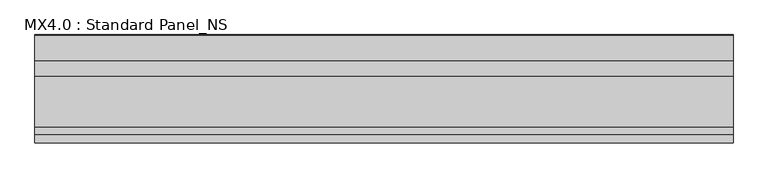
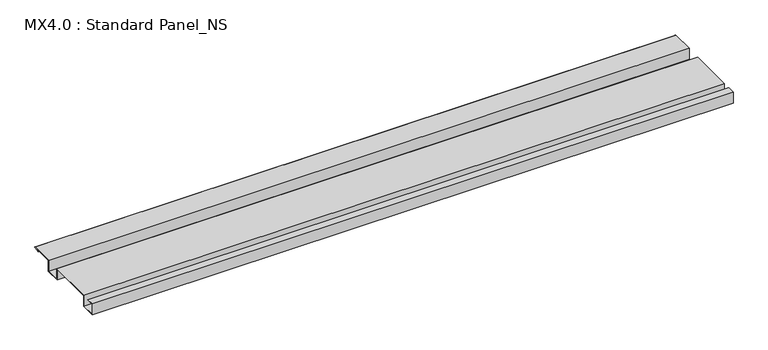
"""IFC4 building model written with IfcOpenShell, lengths in millimetres: proxy geometry, MX4.0 : Standard Panel_NS."""

import ifcopenshell
import ifcopenshell.guid

model = None  # the IFC model being written
_history = None  # IfcOwnerHistory: only IFC2X3 demands one
_inside = {}  # id of a spatial element -> (the spatial element, [elements in it])
_under = {}  # id of a project, library or spatial element -> (it, [spatial elements below it])
_declared = {}  # id of a project -> (the project, [libraries it declares])
_typed = {}  # id of a type object -> (the type object, [elements of that type])
_made_of = {}  # id of a material, layer set ... -> (it, [elements and type objects made of it])


def new_model(schema):
    """Start an empty IFC model of exactly this schema.

    Asked for "IFC4X3", IfcOpenShell would pick the latest addendum, in which some entities
    have other attributes; the version numbers below select the first issue.
    IFC2X3 requires an IfcOwnerHistory on every rooted entity: one is made here for all.
    """
    global model, _history
    if schema == "IFC4X3":
        model = ifcopenshell.file(schema_version=(4, 3, 0, 0))
    else:
        model = ifcopenshell.file(schema=schema)
    _inside.clear()
    _under.clear()
    _declared.clear()
    _typed.clear()
    _made_of.clear()
    _history = None
    if model.schema == "IFC2X3":
        org = make("IfcOrganization", Name="unknown")
        user = make(
            "IfcPersonAndOrganization",
            ThePerson=make("IfcPerson", FamilyName="unknown"),
            TheOrganization=org,
        )
        app = make(
            "IfcApplication",
            ApplicationDeveloper=org,
            Version="unknown",
            ApplicationFullName="unknown",
            ApplicationIdentifier="unknown",
        )
        _history = make(
            "IfcOwnerHistory",
            OwningUser=user,
            OwningApplication=app,
            ChangeAction="ADDED",
            CreationDate=0,
        )
    return model


def make(cls, **values):
    """One entity of the class cls with the attributes given. An attribute that is None is left unset."""
    return model.create_entity(
        cls, **{name: value for name, value in values.items() if value is not None}
    )


def rooted(cls, **values):
    """An entity with a GlobalId (a new one), such as an element, a storey or a relation."""
    return make(cls, GlobalId=ifcopenshell.guid.new(), OwnerHistory=_history, **values)


def si_unit(unit_type, name, prefix=None):
    """IfcSIUnit, for example si_unit("LENGTHUNIT", "METRE", prefix="MILLI")."""
    return make("IfcSIUnit", UnitType=unit_type, Prefix=prefix, Name=name)


def assignment(units):
    """IfcUnitAssignment: the units of a project."""
    return None if units is None else make("IfcUnitAssignment", Units=units)


def point(xyz):
    """IfcCartesianPoint."""
    return None if xyz is None else make("IfcCartesianPoint", Coordinates=xyz)


def direction(xyz):
    """IfcDirection."""
    return None if xyz is None else make("IfcDirection", DirectionRatios=xyz)


def frame(location, z_axis=None, x_axis=None):
    """IfcAxis2Placement3D, a coordinate frame: its origin and axes. An axis left out is left unset."""
    return make(
        "IfcAxis2Placement3D",
        Location=point(location),
        Axis=direction(z_axis),
        RefDirection=direction(x_axis),
    )


def frame_2d(location, x_axis=None):
    """IfcAxis2Placement2D, a coordinate frame in the plane: its origin and x axis."""
    return make(
        "IfcAxis2Placement2D", Location=point(location), RefDirection=direction(x_axis)
    )


def origin():
    """The frame at (0, 0, 0) with its axes left unset."""
    return frame((0.0, 0.0, 0.0))


def place(relative_to, where):
    """IfcLocalPlacement: puts the frame where relative to a parent placement (None: the world)."""
    return make(
        "IfcLocalPlacement", PlacementRelTo=relative_to, RelativePlacement=where
    )


def context(
    kind, dimensions, precision=None, world=None, true_north=None, identifier=None
):
    """IfcGeometricRepresentationContext, for example the 3D "Model" context."""
    return make(
        "IfcGeometricRepresentationContext",
        ContextIdentifier=identifier,
        ContextType=kind,
        CoordinateSpaceDimension=dimensions,
        Precision=precision,
        WorldCoordinateSystem=world,
        TrueNorth=true_north,
    )


def project(units=None, contexts=None):
    """IfcProject with its units and contexts."""
    return rooted(
        "IfcProject",
        Name="project",
        RepresentationContexts=contexts,
        UnitsInContext=assignment(units),
    )


def spatial(cls, under=None, at=None, **own):
    """A site, building, storey or space (cls), placed at a placement, below another one or the project."""
    s = rooted(cls, ObjectPlacement=at, **own)
    if under is not None:
        _under.setdefault(under.id(), (under, []))[1].append(s)
    return s


def polyline(points):
    """IfcPolyline through the points."""
    return make("IfcPolyline", Points=[point(p) for p in points])


def circle_curve(where, radius):
    """IfcCircle in the frame where."""
    return make("IfcCircle", Position=where, Radius=radius)


def trimmed(basis, trim1, trim2, sense, master):
    """IfcTrimmedCurve: the piece of a basis curve between two trims."""
    return make(
        "IfcTrimmedCurve",
        BasisCurve=basis,
        Trim1=trim1,
        Trim2=trim2,
        SenseAgreement=sense,
        MasterRepresentation=master,
    )


def segment(curve, same_sense, transition):
    """IfcCompositeCurveSegment."""
    return make(
        "IfcCompositeCurveSegment",
        Transition=transition,
        SameSense=same_sense,
        ParentCurve=curve,
    )


def composite_curve(segments, self_intersect=None):
    """IfcCompositeCurve: segments joined end to end."""
    return make("IfcCompositeCurve", Segments=segments, SelfIntersect=self_intersect)


def outline(outer, holes=None, kind="AREA"):
    """IfcArbitraryClosedProfileDef: a profile drawn as a closed curve; with holes, ...WithVoids."""
    if holes is None:
        return make("IfcArbitraryClosedProfileDef", ProfileType=kind, OuterCurve=outer)
    return make(
        "IfcArbitraryProfileDefWithVoids",
        ProfileType=kind,
        OuterCurve=outer,
        InnerCurves=holes,
    )


def extrude(swept, where, along, depth):
    """IfcExtrudedAreaSolid: the profile swept, set in the frame where, extruded along a direction by depth."""
    return make(
        "IfcExtrudedAreaSolid",
        SweptArea=swept,
        Position=where,
        ExtrudedDirection=direction(along),
        Depth=depth,
    )


def shape(context_of_items, identifier, shape_type, items):
    """IfcShapeRepresentation: the items that make up one representation, for example the "Body"."""
    return make(
        "IfcShapeRepresentation",
        ContextOfItems=context_of_items,
        RepresentationIdentifier=identifier,
        RepresentationType=shape_type,
        Items=items,
    )


def source(mapping_origin, context_of_items, identifier, shape_type, items):
    """IfcRepresentationMap: a shape defined once, which mapped items show again and again."""
    return make(
        "IfcRepresentationMap",
        MappingOrigin=mapping_origin,
        MappedRepresentation=shape(context_of_items, identifier, shape_type, items),
    )


def transform(
    local_origin,
    x_axis=None,
    y_axis=None,
    z_axis=None,
    scale=None,
    scale2=None,
    scale3=None,
    uniform=True,
):
    """IfcCartesianTransformationOperator3D, or its non-uniform kind. x_axis, y_axis, z_axis: its Axis1, 2, 3."""
    if uniform:
        return make(
            "IfcCartesianTransformationOperator3D",
            Axis1=direction(x_axis),
            Axis2=direction(y_axis),
            LocalOrigin=point(local_origin),
            Scale=scale,
            Axis3=direction(z_axis),
        )
    return make(
        "IfcCartesianTransformationOperator3DnonUniform",
        Axis1=direction(x_axis),
        Axis2=direction(y_axis),
        LocalOrigin=point(local_origin),
        Scale=scale,
        Axis3=direction(z_axis),
        Scale2=scale2,
        Scale3=scale3,
    )


def mapped(mapping_source, mapping_target):
    """IfcMappedItem: shows the shape of a source again, moved by a transform."""
    return make(
        "IfcMappedItem", MappingSource=mapping_source, MappingTarget=mapping_target
    )


def made_of(thing, what):
    """Note that an element or type object is made of a material, layer set ...; save() writes the relation."""
    if what is not None:
        _made_of.setdefault(what.id(), (what, []))[1].append(thing)
    return thing


def element(
    cls,
    number,
    at=None,
    inside=None,
    cuts=None,
    type_object=None,
    material=None,
    context=None,
    identifier="Body",
    shape_type=None,
    held_by="IfcProductDefinitionShape",
    body=None,
    shapes=None,
    **own,
):
    """One element of the class cls, such as IfcWall. Its Tag is "e" and its number.

    at: its placement. inside: the storey or other place that contains it. cuts: it is an
    opening in that element (IfcRelVoidsElement). A single representation is given by context,
    identifier, shape_type and body (its items); several are given by shapes. held_by: the class
    of the entity that holds the representations. save() writes the other relations.
    """
    e = rooted(cls, Tag="e%d" % number, ObjectPlacement=at, **own)
    if body is not None:
        shapes = [shape(context, identifier, shape_type, body)]
    if shapes is not None:
        e.Representation = make(held_by, Representations=shapes)
    if inside is not None:
        _inside.setdefault(inside.id(), (inside, []))[1].append(e)
    if cuts is not None:
        rooted(
            "IfcRelVoidsElement", RelatingBuildingElement=cuts, RelatedOpeningElement=e
        )
    if type_object is not None:
        _typed.setdefault(type_object.id(), (type_object, []))[1].append(e)
    return made_of(e, material)


def aggregate(whole, parts):
    """IfcRelAggregates: a whole, such as a stair, and the parts it consists of."""
    return rooted("IfcRelAggregates", RelatingObject=whole, RelatedObjects=parts)


def save(model, path):
    """Write the relations noted so far, then the file.

    IfcRelAggregates (storeys below a building ...), IfcRelContainedInSpatialStructure (elements
    in a storey), IfcRelDefinesByType, IfcRelAssociatesMaterial and IfcRelDeclares: one each for
    every whole, place, type object, material and project.
    """
    for whole, parts in _under.values():
        aggregate(whole, parts)
    for where, things in _inside.values():
        rooted(
            "IfcRelContainedInSpatialStructure",
            RelatedElements=things,
            RelatingStructure=where,
        )
    for kind, things in _typed.values():
        rooted("IfcRelDefinesByType", RelatedObjects=things, RelatingType=kind)
    for what, things in _made_of.values():
        rooted("IfcRelAssociatesMaterial", RelatedObjects=things, RelatingMaterial=what)
    for by, libraries in _declared.values():
        rooted("IfcRelDeclares", RelatingContext=by, RelatedDefinitions=libraries)
    model.write(path)


def mx4_0_standard_panel_ns_1fe548eb(model_context):
    return source(origin(), model_context, "Body", "SweptSolid", [
        extrude(outline(composite_curve([segment(polyline([(0.0, 0.0), (25.0, 0.0), (25.0, -1.0), (1.0, -1.0), (1.0, -37.0), (49.0, -37.0), (49.0, 0.0), (201.0, 0.0), (201.0, -37.0), (249.0, -37.0), (249.0, 1.0), (325.0510156, 1.0)]), True, "CONTINUOUS"), segment(trimmed(circle_curve(frame_2d((324.3094696, -0.9153551)), 2.0538928), [point((325.0510156, 1.0))], [point((325.1748462, -2.778041))], False, "CARTESIAN"), True, "CONTINUOUS"), segment(polyline([(325.1748462, -2.778041), (308.7874714, -5.923107), (308.5989911, -4.94103), (324.8448691, -1.8231201)]), True, "CONTINUOUS"), segment(trimmed(circle_curve(frame_2d((324.3094696, -0.9153551)), 1.0538928), [point((324.8448691, -1.8231201))], [point((324.8317866, 0.0))], True, "CARTESIAN"), True, "CONTINUOUS"), segment(polyline([(324.8317866, 0.0), (250.0, 0.0), (250.0, -38.0), (200.0, -38.0), (200.0, -1.0), (50.0, -1.0), (50.0, -38.0), (0.0, -38.0), (0.0, 0.0)]), True, "CONTINUOUS")], self_intersect=False)), frame((0.0, 0.0, 0.0), z_axis=(1.0, 0.0, 0.0), x_axis=(0.0, 1.0, 0.0)), (0.0, 0.0, 1.0), 2100.0),
    ])


if __name__ == "__main__":
    model = new_model("IFC4")
    model_context = context("Model", 3, world=origin())
    ifc_project = project(units=[si_unit("LENGTHUNIT", "METRE", prefix="MILLI")], contexts=[model_context])
    site = spatial("IfcSite", under=ifc_project)
    building = spatial("IfcBuilding", under=site)
    placement = place(None, origin())
    mx4_0_standard_panel_ns_shape = mx4_0_standard_panel_ns_1fe548eb(model_context)
    element("IfcBuildingElementProxy", 1, Name="MX4.0 : Standard Panel_NS", ObjectType="MX4.0 : Standard Panel_NS", at=placement, inside=building, context=model_context, shape_type="MappedRepresentation", body=[
        mapped(mx4_0_standard_panel_ns_shape, transform((0.0, 0.0, 0.0), x_axis=(1.0, 0.0, 0.0), y_axis=(0.0, 1.0, 0.0), z_axis=(0.0, 0.0, 1.0))),
    ])
    save(model, "model.ifc")
